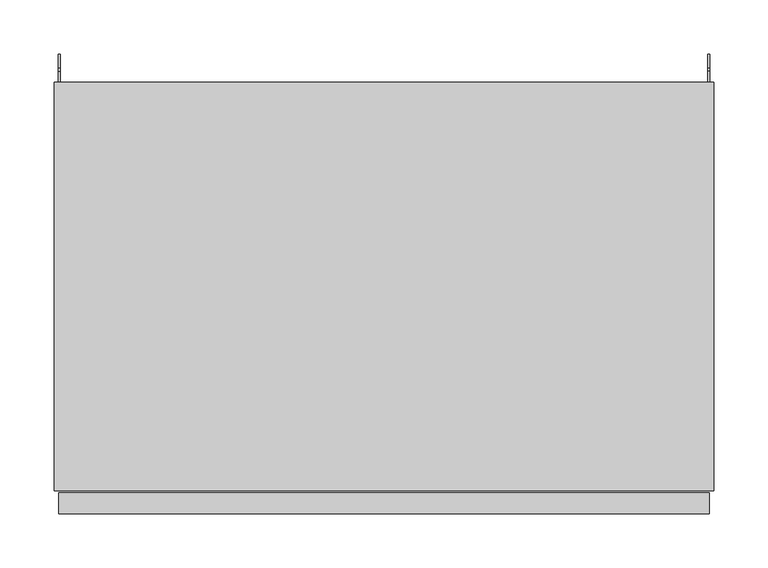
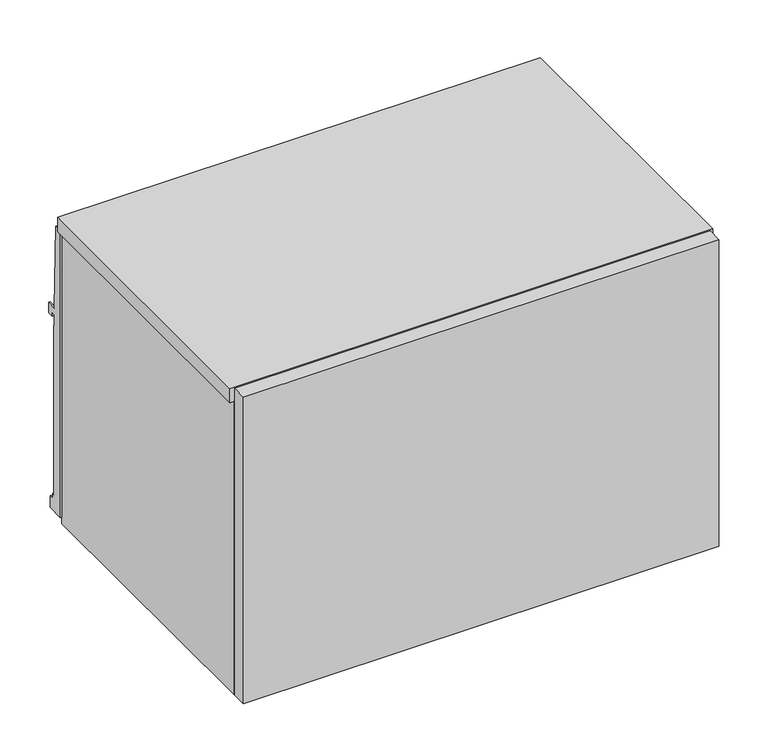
"""IFC4 building model written with IfcOpenShell, lengths in millimetres: furniture geometry, Steelcase - Universal Storage - Over the Case Bin - Flat Front : For Montage - 24W."""

from ifc_helpers import new_model, si_unit, frame, origin, place, context, project, spatial, polyline, outline, extrude, source, transform, mapped, element, save


def furniture_e9d8ac51(model_context):
    return source(origin(), model_context, "Body", "SweptSolid", [
        extrude(outline(polyline([(4.4448587, -379.476), (605.1703, -379.476), (605.1703, -398.526), (4.4448587, -398.526), (4.4448587, -379.476)])), frame((0.0, 0.0, 1266.8226746), z_axis=(0.0, 0.0, 1.0), x_axis=(1.0, 0.0, 0.0)), (0.0, 0.0, 1.0), 409.5773254),
        extrude(outline(polyline([(0.0, 1657.096), (10.1677703, 1657.096), (13.3857995, 1545.8185744), (26.0095997, 1545.8185744), (26.0095997, 1532.1025512), (17.5768, 1532.1025512), (17.5768, 1537.1064608), (13.3349998, 1537.1064608), (13.3349998, 1522.6538546), (14.2747998, 1522.6538546), (14.2747998, 1296.0858527), (17.2466001, 1296.0858527), (17.2466001, 1289.7358043), (22.5806007, 1289.7358043), (22.5806007, 1274.2164027), (0.0, 1274.2164027), (0.0, 1657.096)])), frame((604.0882, 0.0, 0.0), z_axis=(1.0, 0.0, 0.0), x_axis=(0.0, 1.0, 0.0)), (0.0, 0.0, 1.0), 1.905),
        extrude(outline(polyline([(609.6, -377.213238), (0.0, -377.213238), (0.0, 0.0), (609.6, 0.0), (609.6, -377.213238)])), frame((0.0, 0.0, 1657.35), z_axis=(0.0, 0.0, 1.0), x_axis=(1.0, 0.0, 0.0)), (0.0, 0.0, 1.0), 19.05),
        extrude(outline(polyline([(15.875, -377.213238), (5.5118, -377.213238), (5.5118, 0.0), (15.875, 0.0), (15.875, -377.213238)])), frame((0.0, 0.0, 1265.428), z_axis=(0.0, 0.0, 1.0), x_axis=(1.0, 0.0, 0.0)), (0.0, 0.0, 1.0), 391.6679457),
        extrude(outline(polyline([(608.4568665, -377.213238), (593.725, -377.213238), (593.725, 0.0), (608.4568665, 0.0), (608.4568665, -377.213238)])), frame((0.0, 0.0, 1265.428), z_axis=(0.0, 0.0, 1.0), x_axis=(1.0, 0.0, 0.0)), (0.0, 0.0, 1.0), 391.6679457),
        extrude(outline(polyline([(0.0, 1657.096), (10.1677703, 1657.096), (13.3857995, 1545.8185744), (26.0095997, 1545.8185744), (26.0095997, 1532.1025512), (17.5768, 1532.1025512), (17.5768, 1537.1064608), (13.3349998, 1537.1064608), (13.3349998, 1522.6538546), (14.2747998, 1522.6538546), (14.2747998, 1296.0858527), (17.2466001, 1296.0858527), (17.2466001, 1289.7358043), (22.5806007, 1289.7358043), (22.5806007, 1274.2164027), (0.0, 1274.2164027), (0.0, 1657.096)])), frame((3.6068, 0.0, 0.0), z_axis=(1.0, 0.0, 0.0), x_axis=(0.0, 1.0, 0.0)), (0.0, 0.0, 1.0), 1.905),
        extrude(outline(polyline([(-35.4584098, 1372.819257), (-27.0763996, 1372.819257), (-27.0763996, 1360.1191601), (-33.4264117, 1360.1191601), (-33.4264117, 1323.1622589), (-27.0763996, 1323.1622589), (-27.0763996, 1265.428), (-35.4584098, 1265.428), (-35.4584098, 1293.054213), (-46.1263996, 1293.054213), (-46.1263996, 1268.1875622), (-59.9694137, 1268.1875622), (-59.9694137, 1294.8575912), (-332.8542818, 1294.8575912), (-332.8542818, 1268.1875622), (-377.3042823, 1268.1875622), (-377.3042823, 1310.7072052), (-35.4584098, 1310.7072052), (-35.4584098, 1372.819257)])), frame((15.875, 0.0, 0.0), z_axis=(1.0, 0.0, 0.0), x_axis=(0.0, 1.0, 0.0)), (0.0, 0.0, 1.0), 577.85),
    ])


if __name__ == "__main__":
    model = new_model("IFC4")
    model_context = context("Model", 3, world=origin())
    ifc_project = project(units=[si_unit("LENGTHUNIT", "METRE", prefix="MILLI")], contexts=[model_context])
    site = spatial("IfcSite", under=ifc_project)
    building = spatial("IfcBuilding", under=site)
    placement = place(None, origin())
    furniture_shape = furniture_e9d8ac51(model_context)
    element("IfcFurniture", 1, ObjectType="Steelcase - Universal Storage - Over the Case Bin - Flat Front : For Montage - 24W", at=placement, inside=building, context=model_context, shape_type="MappedRepresentation", body=[
        mapped(furniture_shape, transform((0.0, 0.0, 0.0), x_axis=(1.0, 0.0, 0.0), y_axis=(0.0, 1.0, 0.0), z_axis=(0.0, 0.0, 1.0))),
    ])
    save(model, "model.ifc")
